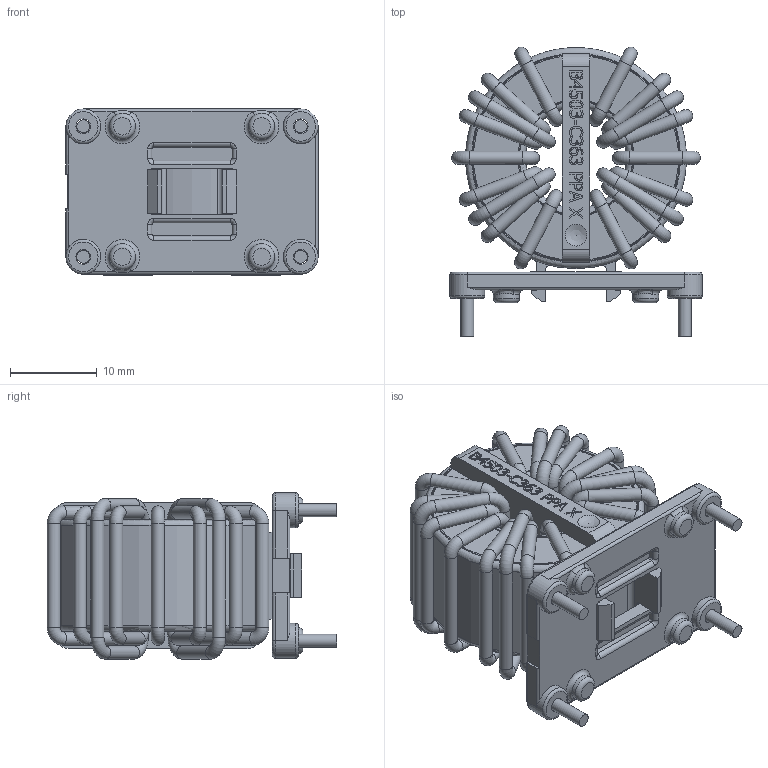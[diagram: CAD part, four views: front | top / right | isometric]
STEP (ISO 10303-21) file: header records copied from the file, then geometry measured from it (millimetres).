
FILE_DESCRIPTION(/* description */ (''),/* implementation_level */ '2;1');
FILE_NAME(/* name */ 'G:\KB-FTKon\CAD\Inventor\Bauelementnummer\6127-X020\6127-X020_Shrinkwrap_1.stp',/* time_stamp */ '2019-04-30T11:17:13+02:00',/* author */ ('de041100'),/* organization */ (''),/* preprocessor_version */ 'ST-DEVELOPER v17.2',/* originating_system */ 'Autodesk Inventor 2019',/* authorisation */ '');
FILE_SCHEMA (('AUTOMOTIVE_DESIGN { 1 0 10303 214 3 1 1 }'));
Length unit declared in the file: millimetre
Products named in the file (1): 6127-X020_Shrinkwrap_1
Bounding box: 29 x 33.3 x 19.1 mm (x, y, z)
Volume: 8116.4 mm3; surface area: 8785.6 mm2
Topology: 11 solids, 11 shells, 1348 faces, 3849 edges, 2528 vertices
Faces by surface type: plane 556, bspline 435, cylinder 191, torus 148, sphere 14, cone 4
Full cylindrical faces by diameter (mm): 1.5 x68, 1.7 x4, 3 x4, 4 x4, 11.6 x1, 13.2 x1, 23.8 x1, 25.4 x1
Entity records: 49876 total; most frequent: CARTESIAN_POINT 15672, ORIENTED_EDGE 7680, DIRECTION 5536, EDGE_CURVE 3840, VERTEX_POINT 2528, LINE 1924, VECTOR 1924, AXIS2_PLACEMENT_3D 1806
